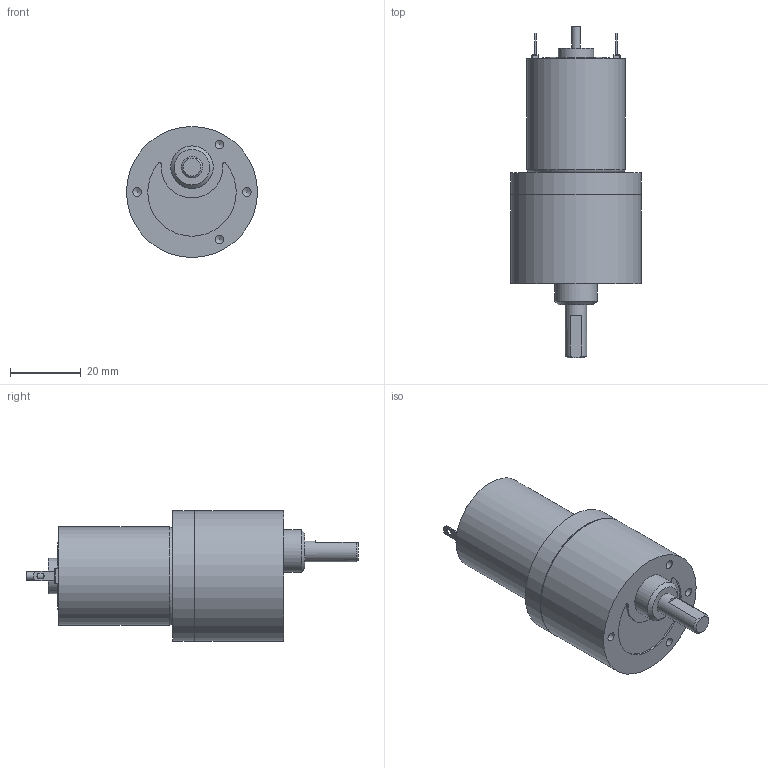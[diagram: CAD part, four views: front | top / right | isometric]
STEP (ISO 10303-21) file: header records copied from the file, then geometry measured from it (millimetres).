
FILE_DESCRIPTION((''),'2;1');
FILE_NAME('C:\Documents and Settings\SSEGAWA\デスクトップ\TP-2732D-HM-5.STP','2013-07-01T11:45:14',('SSEGAWA'),(''),'Autodesk Inventor 2010','Autodesk Inventor 2010','');
FILE_SCHEMA(('CONFIG_CONTROL_DESIGN'));
Length unit declared in the file: millimetre
Products named in the file (3): tp_2732def_hm_5; hm_5; tp_2732d,e,f
Assembly tree (2 placements, depth 2):
  tp_2732def_hm_5
    hm_5
    tp_2732d,e,f
Bounding box: 37 x 93.8 x 37 mm (x, y, z)
Volume: 54290.1 mm3; surface area: 11052.8 mm2
Topology: 2 solids, 2 shells, 147 faces, 323 edges, 206 vertices
Faces by surface type: plane 85, cylinder 35, bspline 21, torus 4, cone 2
Full cylindrical faces by diameter (mm): 2 x2, 2.305 x2, 2.5 x5, 6 x1, 9 x2, 10 x2, 12 x1, 19 x1, 26.7 x1, 27.7 x1, 36.6 x1, 37 x2
Entity records: 3949 total; most frequent: CARTESIAN_POINT 874, DIRECTION 629, ORIENTED_EDGE 538, EDGE_CURVE 269, AXIS2_PLACEMENT_3D 231, EDGE_LOOP 215, VERTEX_POINT 190, VECTOR 167
